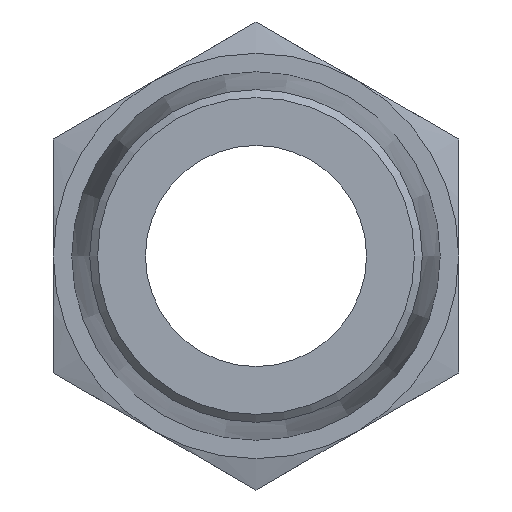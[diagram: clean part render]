
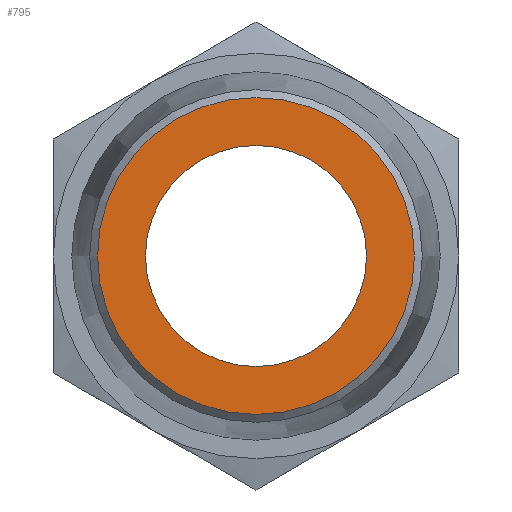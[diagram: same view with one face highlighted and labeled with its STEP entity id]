
A CAD part, front view. The second image highlights one B-rep face of the part: STEP entity #795.
In plain terms, the highlighted planar face has unit normal (0, -1, 0).
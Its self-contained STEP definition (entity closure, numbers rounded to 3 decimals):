
#15=FACE_BOUND('',#144,.T.);
#94=FACE_OUTER_BOUND('',#143,.T.);
#143=EDGE_LOOP('',(#639));
#144=EDGE_LOOP('',(#640));
#188=CIRCLE('',#880,4.3);
#190=CIRCLE('',#884,3.);
#378=VERTEX_POINT('',#1349);
#380=VERTEX_POINT('',#1357);
#473=EDGE_CURVE('',#378,#378,#188,.T.);
#476=EDGE_CURVE('',#380,#380,#190,.T.);
#639=ORIENTED_EDGE('',*,*,#473,.F.);
#640=ORIENTED_EDGE('',*,*,#476,.T.);
#763=PLANE('',#883);
#795=ADVANCED_FACE('',(#94,#15),#763,.T.);
#880=AXIS2_PLACEMENT_3D('',#1351,#1053,#1054);
#883=AXIS2_PLACEMENT_3D('',#1356,#1060,#1061);
#884=AXIS2_PLACEMENT_3D('',#1358,#1062,#1063);
#1053=DIRECTION('center_axis',(0.,1.,0.));
#1054=DIRECTION('ref_axis',(-1.,0.,0.));
#1060=DIRECTION('center_axis',(0.,-1.,0.));
#1061=DIRECTION('ref_axis',(0.,0.,-1.));
#1062=DIRECTION('center_axis',(0.,1.,0.));
#1063=DIRECTION('ref_axis',(1.,0.,0.));
#1349=CARTESIAN_POINT('',(4.3,-7.2,0.));
#1351=CARTESIAN_POINT('Origin',(0.,-7.2,0.));
#1356=CARTESIAN_POINT('Origin',(4.5,-7.2,0.));
#1357=CARTESIAN_POINT('',(-3.,-7.2,0.));
#1358=CARTESIAN_POINT('Origin',(0.,-7.2,0.));
